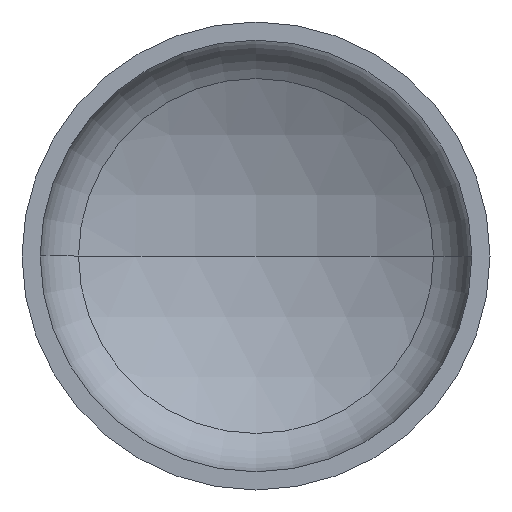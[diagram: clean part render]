
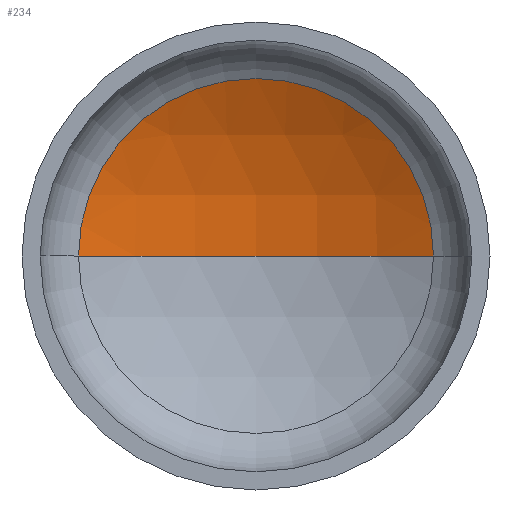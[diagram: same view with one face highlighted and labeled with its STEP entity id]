
A CAD part, front view. The second image highlights one B-rep face of the part: STEP entity #234.
In plain terms, the highlighted spherical face has radius 720 mm.
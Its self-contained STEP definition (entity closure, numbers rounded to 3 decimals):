
#6 = EDGE_LOOP ( 'NONE', ( #44, #30, #363 ) ) ;
#8 = AXIS2_PLACEMENT_3D ( 'NONE', #320, #244, #136 ) ;
#11 = DIRECTION ( 'NONE',  ( -1., 0., 0. ) ) ;
#26 = AXIS2_PLACEMENT_3D ( 'NONE', #184, #285, #182 ) ;
#30 = ORIENTED_EDGE ( 'NONE', *, *, #125, .T. ) ;
#44 = ORIENTED_EDGE ( 'NONE', *, *, #350, .F. ) ;
#49 = AXIS2_PLACEMENT_3D ( 'NONE', #323, #278, #11 ) ;
#50 = AXIS2_PLACEMENT_3D ( 'NONE', #199, #202, #203 ) ;
#67 = VERTEX_POINT ( 'NONE', #346 ) ;
#104 = VERTEX_POINT ( 'NONE', #235 ) ;
#114 = EDGE_CURVE ( 'NONE', #116, #67, #402, .T. ) ;
#116 = VERTEX_POINT ( 'NONE', #228 ) ;
#125 = EDGE_CURVE ( 'NONE', #104, #116, #154, .T. ) ;
#136 = DIRECTION ( 'NONE',  ( 1., 0., 0. ) ) ;
#147 = SPHERICAL_SURFACE ( 'NONE', #26, 720. ) ;
#154 = CIRCLE ( 'NONE', #49, 720. ) ;
#182 = DIRECTION ( 'NONE',  ( -1., 0., 0. ) ) ;
#184 = CARTESIAN_POINT ( 'NONE',  ( 0., -400.661, 0. ) ) ;
#199 = CARTESIAN_POINT ( 'NONE',  ( 0., 233.263, 0. ) ) ;
#202 = DIRECTION ( 'NONE',  ( 0., -1., 0. ) ) ;
#203 = DIRECTION ( 'NONE',  ( 1., 0., 0. ) ) ;
#228 = CARTESIAN_POINT ( 'NONE',  ( 341.379, 233.263, 0. ) ) ;
#234 = ADVANCED_FACE ( 'NONE', ( #338 ), #147, .F. ) ;
#235 = CARTESIAN_POINT ( 'NONE',  ( 0., 319.339, 0. ) ) ;
#244 = DIRECTION ( 'NONE',  ( 0., 0., 1. ) ) ;
#278 = DIRECTION ( 'NONE',  ( 0., 0., -1. ) ) ;
#285 = DIRECTION ( 'NONE',  ( 0., 0., -1. ) ) ;
#320 = CARTESIAN_POINT ( 'NONE',  ( 0., -400.661, 0. ) ) ;
#323 = CARTESIAN_POINT ( 'NONE',  ( 0., -400.661, 0. ) ) ;
#338 = FACE_OUTER_BOUND ( 'NONE', #6, .T. ) ;
#346 = CARTESIAN_POINT ( 'NONE',  ( -341.379, 233.263, 0. ) ) ;
#350 = EDGE_CURVE ( 'NONE', #104, #67, #366, .T. ) ;
#363 = ORIENTED_EDGE ( 'NONE', *, *, #114, .T. ) ;
#366 = CIRCLE ( 'NONE', #8, 720. ) ;
#402 = CIRCLE ( 'NONE', #50, 341.379 ) ;
